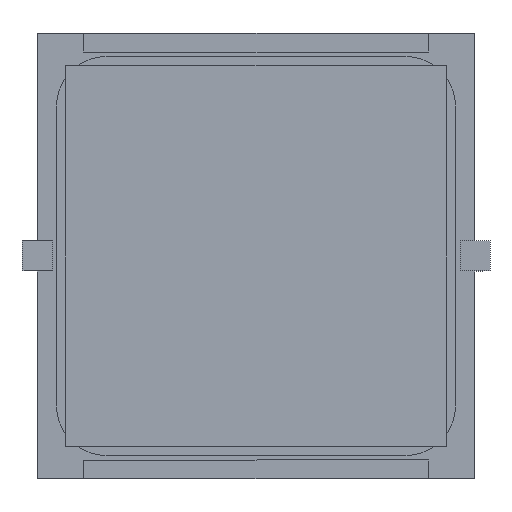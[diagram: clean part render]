
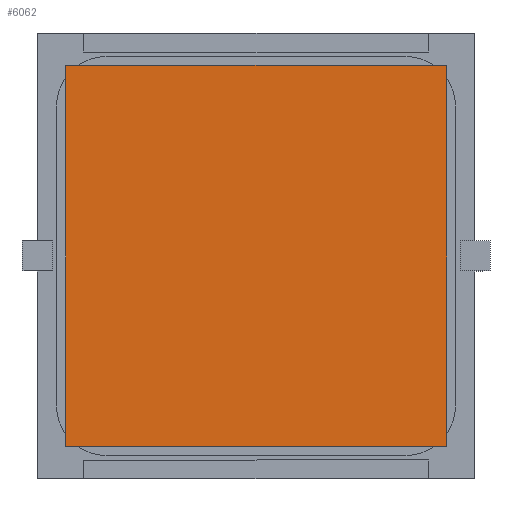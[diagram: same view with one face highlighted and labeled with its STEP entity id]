
A CAD part, front view. The second image highlights one B-rep face of the part: STEP entity #6062.
In plain terms, the highlighted planar face has unit normal (0, -1, 0).
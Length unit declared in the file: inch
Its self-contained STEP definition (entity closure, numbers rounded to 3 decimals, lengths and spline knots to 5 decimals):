
#15 = ORIENTED_EDGE ( 'NONE', *, *, #1001, .F. ) ;
#55 = CARTESIAN_POINT ( 'NONE',  ( 0.5, -0.005, -0.5 ) ) ;
#146 = CARTESIAN_POINT ( 'NONE',  ( -0.5, -0.005, -0.5 ) ) ;
#156 = VERTEX_POINT ( 'NONE', #55 ) ;
#429 = CARTESIAN_POINT ( 'NONE',  ( -0.5, -0.005, -0.5 ) ) ;
#452 = DIRECTION ( 'NONE',  ( 0., 1., 0. ) ) ;
#519 = EDGE_LOOP ( 'NONE', ( #1728, #15, #7309, #1205 ) ) ;
#1001 = EDGE_CURVE ( 'NONE', #156, #2531, #5784, .T. ) ;
#1077 = DIRECTION ( 'NONE',  ( 1., 0., 0. ) ) ;
#1176 = VERTEX_POINT ( 'NONE', #2244 ) ;
#1205 = ORIENTED_EDGE ( 'NONE', *, *, #7020, .F. ) ;
#1257 = EDGE_CURVE ( 'NONE', #2531, #5389, #3092, .T. ) ;
#1728 = ORIENTED_EDGE ( 'NONE', *, *, #1257, .F. ) ;
#2034 = PLANE ( 'NONE',  #3787 ) ;
#2167 = LINE ( 'NONE', #7569, #4869 ) ;
#2244 = CARTESIAN_POINT ( 'NONE',  ( 0.5, -0.005, 0.5 ) ) ;
#2262 = LINE ( 'NONE', #4643, #3612 ) ;
#2531 = VERTEX_POINT ( 'NONE', #146 ) ;
#2801 = DIRECTION ( 'NONE',  ( -1., 0., 0. ) ) ;
#3092 = LINE ( 'NONE', #5940, #7050 ) ;
#3422 = DIRECTION ( 'NONE',  ( 0., 0., -1. ) ) ;
#3612 = VECTOR ( 'NONE', #3422, 39.37008 ) ;
#3787 = AXIS2_PLACEMENT_3D ( 'NONE', #4542, #452, #4498 ) ;
#4498 = DIRECTION ( 'NONE',  ( 0., 0., 1. ) ) ;
#4542 = CARTESIAN_POINT ( 'NONE',  ( -0.5, -0.005, 0.5 ) ) ;
#4600 = CARTESIAN_POINT ( 'NONE',  ( -0.5, -0.005, 0.5 ) ) ;
#4643 = CARTESIAN_POINT ( 'NONE',  ( 0.5, -0.005, -0.5 ) ) ;
#4869 = VECTOR ( 'NONE', #1077, 39.37008 ) ;
#5385 = DIRECTION ( 'NONE',  ( 0., 0., 1. ) ) ;
#5389 = VERTEX_POINT ( 'NONE', #4600 ) ;
#5784 = LINE ( 'NONE', #429, #5935 ) ;
#5935 = VECTOR ( 'NONE', #2801, 39.37008 ) ;
#5940 = CARTESIAN_POINT ( 'NONE',  ( -0.5, -0.005, -0.5 ) ) ;
#6062 = ADVANCED_FACE ( 'NONE', ( #7376 ), #2034, .F. ) ;
#7020 = EDGE_CURVE ( 'NONE', #5389, #1176, #2167, .T. ) ;
#7050 = VECTOR ( 'NONE', #5385, 39.37008 ) ;
#7309 = ORIENTED_EDGE ( 'NONE', *, *, #7555, .F. ) ;
#7376 = FACE_OUTER_BOUND ( 'NONE', #519, .T. ) ;
#7555 = EDGE_CURVE ( 'NONE', #1176, #156, #2262, .T. ) ;
#7569 = CARTESIAN_POINT ( 'NONE',  ( -0.5, -0.005, 0.5 ) ) ;
